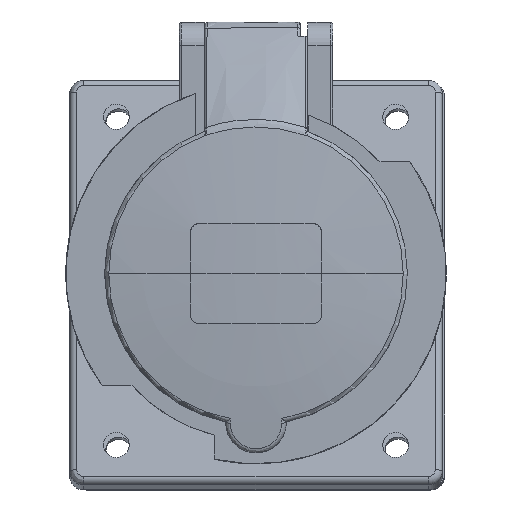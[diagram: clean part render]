
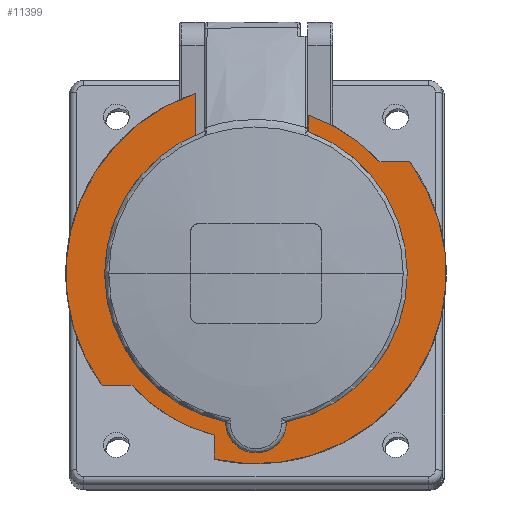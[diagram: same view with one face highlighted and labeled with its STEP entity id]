
A CAD part, top view. The second image highlights one B-rep face of the part: STEP entity #11399.
In plain terms, the highlighted planar face has unit normal (0, 0, 1).
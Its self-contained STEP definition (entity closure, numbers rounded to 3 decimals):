
#10091 = VERTEX_POINT('',#10092);
#10092 = CARTESIAN_POINT('',(11.2,34.056,48.5));
#10098 = EDGE_CURVE('',#10099,#10091,#10101,.T.);
#10099 = VERTEX_POINT('',#10100);
#10100 = CARTESIAN_POINT('',(26.631,24.,48.5));
#10101 = CIRCLE('',#10102,35.85);
#10102 = AXIS2_PLACEMENT_3D('',#10103,#10104,#10105);
#10103 = CARTESIAN_POINT('',(0.,0.,48.5));
#10104 = DIRECTION('',(0.,0.,1.));
#10105 = DIRECTION('',(0.743,0.669,-0.));
#10503 = EDGE_CURVE('',#10504,#10506,#10508,.T.);
#10504 = VERTEX_POINT('',#10505);
#10505 = CARTESIAN_POINT('',(-13.,29.787,48.5));
#10506 = VERTEX_POINT('',#10507);
#10507 = CARTESIAN_POINT('',(-13.,38.726,48.5));
#10508 = LINE('',#10509,#10510);
#10509 = CARTESIAN_POINT('',(-13.,29.787,48.5));
#10510 = VECTOR('',#10511,1.);
#10511 = DIRECTION('',(0.,1.,0.));
#11380 = VERTEX_POINT('',#11381);
#11381 = CARTESIAN_POINT('',(11.2,31.7,48.5));
#11387 = EDGE_CURVE('',#10091,#11380,#11388,.T.);
#11388 = LINE('',#11389,#11390);
#11389 = CARTESIAN_POINT('',(11.2,34.056,48.5));
#11390 = VECTOR('',#11391,1.);
#11391 = DIRECTION('',(0.,-1.,0.));
#11399 = ADVANCED_FACE('',(#11400),#11487,.F.);
#11400 = FACE_BOUND('',#11401,.T.);
#11401 = EDGE_LOOP('',(#11402,#11410,#11411,#11412,#11420,#11429,#11438,
    #11445,#11446,#11455,#11463,#11472,#11480));
#11402 = ORIENTED_EDGE('',*,*,#11403,.T.);
#11403 = EDGE_CURVE('',#11404,#10099,#11406,.T.);
#11404 = VERTEX_POINT('',#11405);
#11405 = CARTESIAN_POINT('',(33.056,24.,48.5));
#11406 = LINE('',#11407,#11408);
#11407 = CARTESIAN_POINT('',(33.056,24.,48.5));
#11408 = VECTOR('',#11409,1.);
#11409 = DIRECTION('',(-1.,0.,0.));
#11410 = ORIENTED_EDGE('',*,*,#10098,.T.);
#11411 = ORIENTED_EDGE('',*,*,#11387,.T.);
#11412 = ORIENTED_EDGE('',*,*,#11413,.T.);
#11413 = EDGE_CURVE('',#11380,#11414,#11416,.T.);
#11414 = VERTEX_POINT('',#11415);
#11415 = CARTESIAN_POINT('',(11.2,30.509,48.5));
#11416 = LINE('',#11417,#11418);
#11417 = CARTESIAN_POINT('',(11.2,31.7,48.5));
#11418 = VECTOR('',#11419,1.);
#11419 = DIRECTION('',(0.,-1.,0.));
#11420 = ORIENTED_EDGE('',*,*,#11421,.F.);
#11421 = EDGE_CURVE('',#11422,#11414,#11424,.T.);
#11422 = VERTEX_POINT('',#11423);
#11423 = CARTESIAN_POINT('',(6.498,-31.844,48.5));
#11424 = CIRCLE('',#11425,32.5);
#11425 = AXIS2_PLACEMENT_3D('',#11426,#11427,#11428);
#11426 = CARTESIAN_POINT('',(0.,0.,48.5));
#11427 = DIRECTION('',(0.,0.,1.));
#11428 = DIRECTION('',(0.2,-0.98,0.));
#11429 = ORIENTED_EDGE('',*,*,#11430,.F.);
#11430 = EDGE_CURVE('',#11431,#11422,#11433,.T.);
#11431 = VERTEX_POINT('',#11432);
#11432 = CARTESIAN_POINT('',(-6.498,-31.844,48.5));
#11433 = CIRCLE('',#11434,6.5);
#11434 = AXIS2_PLACEMENT_3D('',#11435,#11436,#11437);
#11435 = CARTESIAN_POINT('',(0.,-32.,48.5));
#11436 = DIRECTION('',(0.,0.,1.));
#11437 = DIRECTION('',(-1.,0.024,0.));
#11438 = ORIENTED_EDGE('',*,*,#11439,.F.);
#11439 = EDGE_CURVE('',#10504,#11431,#11440,.T.);
#11440 = CIRCLE('',#11441,32.5);
#11441 = AXIS2_PLACEMENT_3D('',#11442,#11443,#11444);
#11442 = CARTESIAN_POINT('',(0.,0.,48.5));
#11443 = DIRECTION('',(0.,0.,1.));
#11444 = DIRECTION('',(-0.4,0.917,0.));
#11445 = ORIENTED_EDGE('',*,*,#10503,.T.);
#11446 = ORIENTED_EDGE('',*,*,#11447,.T.);
#11447 = EDGE_CURVE('',#10506,#11448,#11450,.T.);
#11448 = VERTEX_POINT('',#11449);
#11449 = CARTESIAN_POINT('',(-33.056,-24.,48.5));
#11450 = CIRCLE('',#11451,40.85);
#11451 = AXIS2_PLACEMENT_3D('',#11452,#11453,#11454);
#11452 = CARTESIAN_POINT('',(0.,0.,48.5));
#11453 = DIRECTION('',(0.,0.,1.));
#11454 = DIRECTION('',(-0.318,0.948,0.));
#11455 = ORIENTED_EDGE('',*,*,#11456,.T.);
#11456 = EDGE_CURVE('',#11448,#11457,#11459,.T.);
#11457 = VERTEX_POINT('',#11458);
#11458 = CARTESIAN_POINT('',(-26.631,-24.,48.5));
#11459 = LINE('',#11460,#11461);
#11460 = CARTESIAN_POINT('',(-33.056,-24.,48.5));
#11461 = VECTOR('',#11462,1.);
#11462 = DIRECTION('',(1.,0.,0.));
#11463 = ORIENTED_EDGE('',*,*,#11464,.T.);
#11464 = EDGE_CURVE('',#11457,#11465,#11467,.T.);
#11465 = VERTEX_POINT('',#11466);
#11466 = CARTESIAN_POINT('',(-9.,-34.702,48.5));
#11467 = CIRCLE('',#11468,35.85);
#11468 = AXIS2_PLACEMENT_3D('',#11469,#11470,#11471);
#11469 = CARTESIAN_POINT('',(0.,0.,48.5));
#11470 = DIRECTION('',(0.,0.,1.));
#11471 = DIRECTION('',(-0.743,-0.669,0.));
#11472 = ORIENTED_EDGE('',*,*,#11473,.F.);
#11473 = EDGE_CURVE('',#11474,#11465,#11476,.T.);
#11474 = VERTEX_POINT('',#11475);
#11475 = CARTESIAN_POINT('',(-9.,-39.846,48.5));
#11476 = LINE('',#11477,#11478);
#11477 = CARTESIAN_POINT('',(-9.,-39.846,48.5));
#11478 = VECTOR('',#11479,1.);
#11479 = DIRECTION('',(0.,1.,0.));
#11480 = ORIENTED_EDGE('',*,*,#11481,.T.);
#11481 = EDGE_CURVE('',#11474,#11404,#11482,.T.);
#11482 = CIRCLE('',#11483,40.85);
#11483 = AXIS2_PLACEMENT_3D('',#11484,#11485,#11486);
#11484 = CARTESIAN_POINT('',(0.,0.,48.5));
#11485 = DIRECTION('',(0.,0.,1.));
#11486 = DIRECTION('',(-0.22,-0.975,0.));
#11487 = PLANE('',#11488);
#11488 = AXIS2_PLACEMENT_3D('',#11489,#11490,#11491);
#11489 = CARTESIAN_POINT('',(0.,0.,48.5));
#11490 = DIRECTION('',(0.,0.,-1.));
#11491 = DIRECTION('',(1.,0.,0.));
